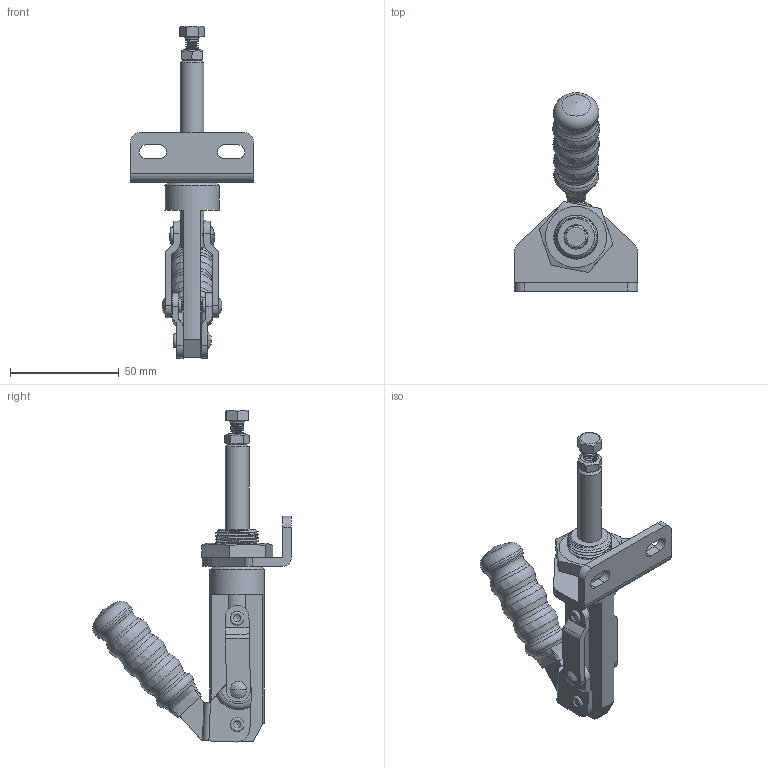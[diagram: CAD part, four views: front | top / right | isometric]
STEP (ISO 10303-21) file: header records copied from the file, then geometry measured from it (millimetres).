
FILE_DESCRIPTION(/* description */ ('STEP AP203'),/* implementation_level */ '2;1');
FILE_NAME(/* name */ 'D:\Vault_2016\Projekty\STRONA\Push-pull clamp\CH-30250\CH-30250_ZAMKNIETY.stp',/* time_stamp */ '2019-01-10T15:08:43+01:00',/* author */ ('user'),/* organization */ ('Î¢ÈíÖÐ¹ú'),/* preprocessor_version */ 'ST-DEVELOPER v17.2',/* originating_system */ 'Autodesk Inventor 2019',/* authorisation */ '');
FILE_SCHEMA (('AUTOMOTIVE_DESIGN { 1 0 10303 214 3 1 1 }'));
Products named in the file (13): CH-30250_ZAMKNIETY; CH-30250-05_Ä¬ÈÏ; CH-30250-02 CREST STALK_Ä¬ÈÏ; M6 Nut_Ä¬ÈÏ; CH-30250-01 BASE_Ä¬ÈÏ; CH-30250-03 HANDLE_Ä¬ÈÏ; CH-30250-10_Ä¬ÈÏ; CH-30250-04 CONNECTING-PLATE_Ä¬ÈÏ; M6X20_Ä¬ÈÏ; CH-30250-07_Ä¬ÈÏ; CH-30250-08_Ä¬ÈÏ; CH-30250-06_Ä¬ÈÏ; CH-30250-09_Ä¬ÈÏ
Assembly tree (14 placements, depth 2):
  CH-30250_ZAMKNIETY
    CH-30250-07_Ä¬ÈÏ  x2
    CH-30250-05_Ä¬ÈÏ
    CH-30250-04 CONNECTING-PLATE_Ä¬ÈÏ  x2
    CH-30250-02 CREST STALK_Ä¬ÈÏ
    M6 Nut_Ä¬ÈÏ
    CH-30250-01 BASE_Ä¬ÈÏ
    CH-30250-03 HANDLE_Ä¬ÈÏ
    CH-30250-10_Ä¬ÈÏ
    M6X20_Ä¬ÈÏ
    CH-30250-08_Ä¬ÈÏ
    CH-30250-06_Ä¬ÈÏ
    CH-30250-09_Ä¬ÈÏ
Bounding box: 57 x 91.53 x 152.97 mm (x, y, z)
Volume: 63021.6 mm3; surface area: 39150 mm2
Topology: 15 solids, 15 shells, 619 faces, 1734 edges, 1158 vertices
Faces by surface type: plane 242, bspline 214, cylinder 111, cone 36, torus 16
Full cylindrical faces by diameter (mm): 0.839 x1, 0.959 x1, 3.27 x1, 3.274 x2, 3.283 x1, 4.8 x19, 5.02 x14, 6 x18, 11 x2, 17 x1, 18.5 x3, 20 x9, 20.847 x1, 25 x1
Entity records: 36472 total; most frequent: CARTESIAN_POINT 22147, ORIENTED_EDGE 3324, DIRECTION 2148, EDGE_CURVE 1662, VERTEX_POINT 1119, LINE 818, VECTOR 818, AXIS2_PLACEMENT_3D 665
